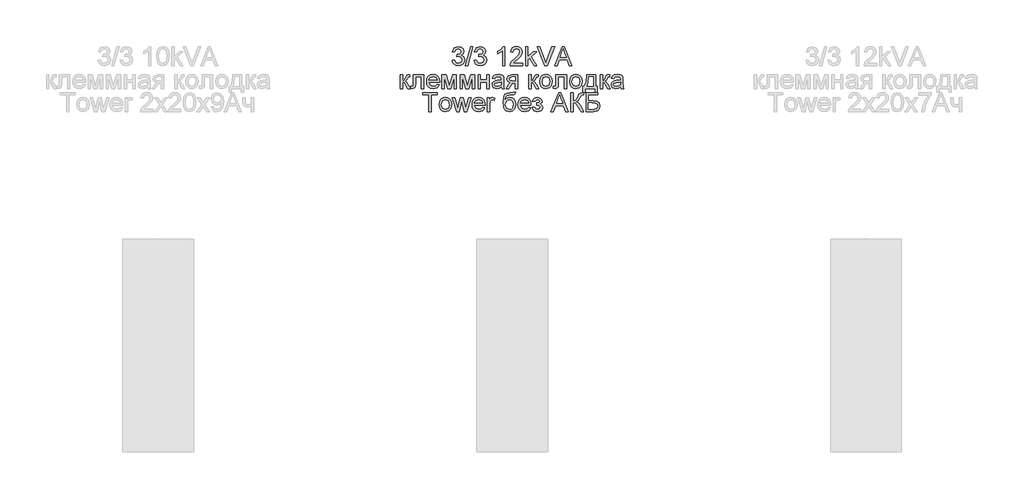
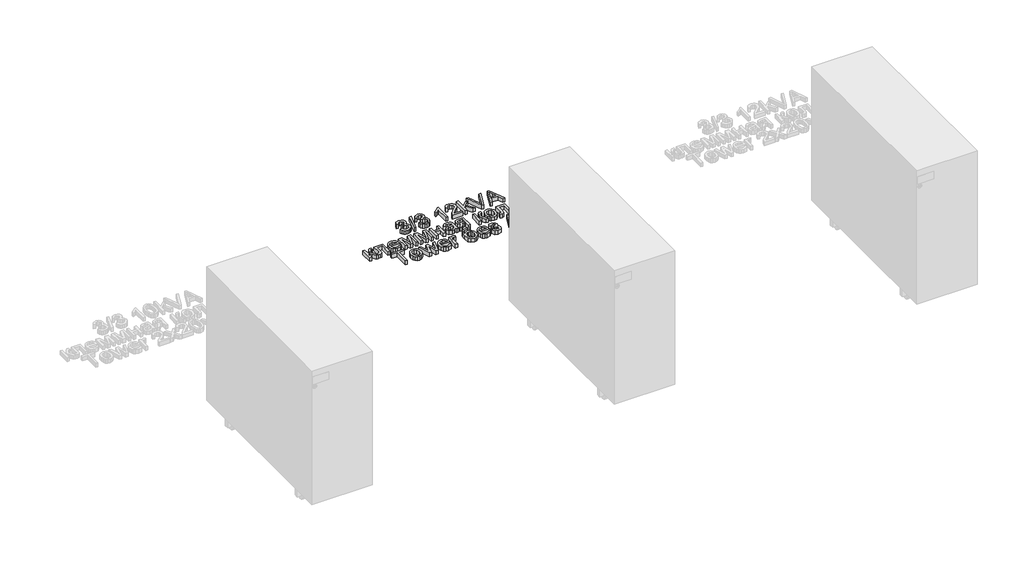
# One storey, part 25 of 74: 1 proxy.
"""IFC4 building model written with IfcOpenShell, lengths in millimetres."""

from ifc_helpers import new_model, si_unit, origin, origin_with_axes, place, context, project, spatial, polyline, outline, extrude, element, save

model = new_model("IFC4")

# Units and contexts
model_context = context("Model", 3, world=origin())
ifc_project = project(units=[si_unit("LENGTHUNIT", "METRE", prefix="MILLI")], contexts=[model_context])

# Site, building, storey
site = spatial("IfcSite", under=ifc_project)
building = spatial("IfcBuilding", under=site)
storey = spatial("IfcBuildingStorey", under=building, Name="Этаж 01", Elevation=0.0)

# Proxy
placement = place(None, origin())
element("IfcBuildingElementProxy", 1, Name="80 мм Arial", ObjectType="80 мм Arial", at=placement, inside=storey, context=model_context, shape_type="SweptSolid", body=[
    extrude(outline(polyline([(10098.3137414, -18752.4422861), (10108.3593724, -18751.1865822), (10113.9021278, -18761.7619633), (10124.2714949, -18764.9993249), (10136.475367, -18760.5455002), (10141.0076732, -18749.5188505), (10136.5146077, -18739.129863), (10125.0955506, -18735.0193948), (10118.0518367, -18736.1181357), (10119.1701979, -18726.0725047), (10120.7790685, -18726.1902269), (10132.1785053, -18723.3060321), (10137.2405615, -18714.4376235), (10133.5715518, -18706.5796641), (10124.114532, -18703.4698349), (10114.5397899, -18706.6090946), (10109.6150762, -18716.0268737), (10099.5694452, -18714.7711698), (10107.7903816, -18699.0160102), (10123.7613652, -18693.4242039), (10135.8769456, -18696.1808663), (10144.3529468, -18703.7150896), (10147.2861926, -18713.8490123), (10144.5000996, -18723.1098284), (10136.2595429, -18729.7611348), (10147.2077111, -18736.6282654), (10151.0533042, -18749.6954339), (10149.1305076, -18759.4860001), (10143.3621179, -18767.6676956), (10134.6555774, -18773.2006408), (10123.9183282, -18775.0449559), (10114.2062435, -18773.470421), (10106.2992332, -18768.7468161), (10100.8006236, -18761.5216138), (10098.3137414, -18752.4422861)])), origin_with_axes(), (0.0, 0.0, 1.0), 20.0),
    extrude(outline(polyline([(10154.8204158, -18773.789252), (10177.4230856, -18693.4242039), (10186.487698, -18693.4242039), (10163.8850282, -18773.789252), (10154.8204158, -18773.789252)])), origin_with_axes(), (0.0, 0.0, 1.0), 20.0),
    extrude(outline(polyline([(10191.2358282, -18752.4422861), (10201.2814593, -18751.1865822), (10206.8242147, -18761.7619633), (10217.1935818, -18764.9993249), (10229.3974539, -18760.5455002), (10233.9297601, -18749.5188505), (10229.4366946, -18739.129863), (10218.0176375, -18735.0193948), (10210.9739236, -18736.1181357), (10212.0922848, -18726.0725047), (10213.7011554, -18726.1902269), (10225.1005922, -18723.3060321), (10230.1626484, -18714.4376235), (10226.4936387, -18706.5796641), (10217.0366188, -18703.4698349), (10207.4618768, -18706.6090946), (10202.5371631, -18716.0268737), (10192.4915321, -18714.7711698), (10200.7124684, -18699.0160102), (10216.6834521, -18693.4242039), (10228.7990325, -18696.1808663), (10237.2750337, -18703.7150896), (10240.2082794, -18713.8490123), (10237.4221865, -18723.1098284), (10229.1816298, -18729.7611348), (10240.129798, -18736.6282654), (10243.9753911, -18749.6954339), (10242.0525945, -18759.4860001), (10236.2842048, -18767.6676956), (10227.5776643, -18773.2006408), (10216.8404151, -18775.0449559), (10207.1283304, -18773.470421), (10199.2213201, -18768.7468161), (10193.7227105, -18761.5216138), (10191.2358282, -18752.4422861)])), origin_with_axes(), (0.0, 0.0, 1.0), 20.0),
    extrude(outline(polyline([(10321.8290314, -18773.789252), (10311.7834004, -18773.789252), (10311.7834004, -18711.1610212), (10302.2675195, -18717.9398601), (10291.6921384, -18723.0117265), (10291.6921384, -18713.5154659), (10306.4172284, -18704.1173072), (10315.3543083, -18693.4242039), (10321.8290314, -18693.4242039), (10321.8290314, -18773.789252)])), origin_with_axes(), (0.0, 0.0, 1.0), 20.0),
    extrude(outline(polyline([(10397.1712641, -18763.743621), (10397.1712641, -18773.789252), (10344.4317012, -18773.789252), (10345.5108217, -18766.8632603), (10351.6127578, -18756.1995876), (10364.1894169, -18744.5548961), (10381.5338267, -18727.8187179), (10385.8699292, -18716.4389015), (10381.7790814, -18707.2271364), (10371.0957882, -18703.4698349), (10359.9612265, -18707.1388447), (10355.7330361, -18717.2825776), (10345.6874051, -18716.0268737), (10348.1227839, -18706.3098839), (10353.3884015, -18699.212214), (10361.2095727, -18694.8712064), (10371.3116123, -18693.4242039), (10381.4872283, -18695.0330745), (10389.2936843, -18699.8596863), (10394.2600912, -18707.0701734), (10395.9155602, -18715.83067), (10394.1301062, -18725.3563611), (10388.1949434, -18735.2057884), (10373.8033997, -18748.9694801), (10362.247, -18758.6325138), (10357.7146938, -18763.743621), (10397.1712641, -18763.743621)])), origin_with_axes(), (0.0, 0.0, 1.0), 20.0),
    extrude(outline(polyline([(10409.7283028, -18773.789252), (10409.7283028, -18693.4242039), (10419.7739338, -18693.4242039), (10419.7739338, -18736.608645), (10442.2981221, -18714.7711698), (10456.1893463, -18714.7711698), (10433.3904728, -18736.8833303), (10457.4450501, -18773.789252), (10445.712067, -18773.789252), (10426.1897958, -18743.8681831), (10419.7739338, -18750.0878413), (10419.7739338, -18773.789252), (10409.7283028, -18773.789252)])), origin_with_axes(), (0.0, 0.0, 1.0), 20.0),
    extrude(outline(polyline([(10532.2182919, -18773.789252), (10564.2976019, -18693.4242039), (10572.8520846, -18693.4242039), (10604.9313946, -18773.789252), (10594.3167727, -18773.789252), (10585.1148177, -18748.6751745), (10552.0152484, -18748.6751745), (10542.8329138, -18773.789252), (10532.2182919, -18773.789252)]), holes=[polyline([(10555.7038785, -18738.6295435), (10581.445808, -18738.6295435), (10574.2058903, -18718.8718278), (10568.5748432, -18703.4698349), (10563.5716481, -18717.145235), (10555.7038785, -18738.6295435)])]), origin_with_axes(), (0.0, 0.0, 1.0), 20.0),
    extrude(outline(polyline([(10491.2313326, -18773.789252), (10459.2501245, -18693.4242039), (10470.0020889, -18693.4242039), (10491.4079159, -18751.3239249), (10495.7440184, -18764.3714729), (10500.0212597, -18751.3239249), (10521.4859479, -18693.4242039), (10532.2379123, -18693.4242039), (10501.6105099, -18773.789252), (10491.2313326, -18773.789252)])), origin_with_axes(), (0.0, 0.0, 1.0), 20.0),
    extrude(outline(polyline([(9933.1886815, -18812.3510241), (9978.3940211, -18812.3510241), (9978.3940211, -18871.3102452), (9968.3483901, -18871.3102452), (9968.3483901, -18822.3966551), (9943.2343126, -18822.3966551), (9943.2343126, -18850.5518905), (9942.5574097, -18863.5405774), (9938.839349, -18869.0244717), (9930.0494219, -18871.3691063), (9921.8873467, -18870.8589766), (9921.8873467, -18861.3234753), (9926.3804121, -18861.3234753), (9930.9225285, -18860.7054335), (9932.737413, -18858.7433962), (9933.1886815, -18849.9828996), (9933.1886815, -18812.3510241)])), origin_with_axes(), (0.0, 0.0, 1.0), 20.0),
    extrude(outline(polyline([(9879.1934148, -18812.3510241), (9889.2390459, -18812.3510241), (9889.2390459, -18837.4651016), (9895.9688338, -18835.6600273), (9901.4821587, -18825.1435073), (9906.0635158, -18816.0690848), (9910.1053126, -18813.1162186), (9917.4531423, -18812.3510241), (9919.3759389, -18812.3510241), (9919.3759389, -18822.4555162), (9916.6683274, -18822.3966551), (9911.7632341, -18823.4561553), (9908.3100485, -18830.068221), (9904.2584414, -18837.219847), (9898.5783434, -18840.7220836), (9904.9157239, -18844.6314429), (9911.1353822, -18852.8670945), (9921.8873467, -18871.3691063), (9910.4682895, -18871.3691063), (9899.9321492, -18853.259502), (9894.6346485, -18845.5977463), (9889.2390459, -18843.743621), (9889.2390459, -18871.3691063), (9879.1934148, -18871.3691063), (9879.1934148, -18812.3510241)])), origin_with_axes(), (0.0, 0.0, 1.0), 20.0),
    extrude(outline(polyline([(10034.7829733, -18853.789252), (10044.6324006, -18855.0449559), (10035.4206355, -18868.0140225), (10018.2626192, -18872.6248102), (10006.4756801, -18870.6357949), (9997.4061626, -18864.6687489), (9991.6230577, -18855.1111747), (9989.695356, -18842.3505745), (9991.642678, -18829.1607787), (9997.4846441, -18819.2966362), (10006.4315342, -18813.1456492), (10017.6936284, -18811.0953202), (10028.6050084, -18813.1407441), (10037.3238116, -18819.2770158), (10043.0406979, -18829.121538), (10044.9463266, -18842.2917134), (10044.8874655, -18844.9993249), (9999.740987, -18844.9993249), (10005.5191869, -18858.046873), (10018.4588229, -18862.5791792), (10028.3082502, -18860.4797992), (10034.7829733, -18853.789252)]), holes=[polyline([(9999.740987, -18834.9536939), (10034.9006956, -18834.9536939), (10030.8785191, -18825.8498408), (10017.6543876, -18821.1409512), (10005.2837424, -18824.8982527), (9999.740987, -18834.9536939)])]), origin_with_axes(), (0.0, 0.0, 1.0), 20.0),
    extrude(outline(polyline([(10054.9919576, -18812.3510241), (10072.2775063, -18812.3510241), (10085.5997396, -18859.5968825), (10099.9618527, -18812.3510241), (10116.5214476, -18812.3510241), (10116.5214476, -18871.3691063), (10106.4758166, -18871.3691063), (10106.4758166, -18823.8485627), (10092.035222, -18871.3691063), (10078.8503313, -18871.3691063), (10065.0375886, -18821.5725994), (10065.0375886, -18871.3691063), (10054.9919576, -18871.3691063), (10054.9919576, -18812.3510241)])), origin_with_axes(), (0.0, 0.0, 1.0), 20.0),
    extrude(outline(polyline([(10131.5898941, -18812.3510241), (10148.8754428, -18812.3510241), (10162.1976761, -18859.5968825), (10176.5597892, -18812.3510241), (10193.1193841, -18812.3510241), (10193.1193841, -18871.3691063), (10183.073753, -18871.3691063), (10183.073753, -18823.8485627), (10168.6331585, -18871.3691063), (10155.4482678, -18871.3691063), (10141.6355251, -18821.5725994), (10141.6355251, -18871.3691063), (10131.5898941, -18871.3691063), (10131.5898941, -18812.3510241)])), origin_with_axes(), (0.0, 0.0, 1.0), 20.0),
    extrude(outline(polyline([(10208.1878306, -18812.3510241), (10218.2334616, -18812.3510241), (10218.2334616, -18834.9536939), (10244.603243, -18834.9536939), (10244.603243, -18812.3510241), (10254.648874, -18812.3510241), (10254.648874, -18871.3691063), (10244.603243, -18871.3691063), (10244.603243, -18844.9993249), (10218.2334616, -18844.9993249), (10218.2334616, -18871.3691063), (10208.1878306, -18871.3691063), (10208.1878306, -18812.3510241)])), origin_with_axes(), (0.0, 0.0, 1.0), 20.0),
    extrude(outline(polyline([(10307.3884369, -18863.834883), (10297.6469216, -18870.6431525), (10286.885147, -18872.6248102), (10272.2973996, -18867.8570595), (10267.2059128, -18855.6728078), (10269.1287094, -18847.7265567), (10274.1809554, -18841.9581671), (10281.2148592, -18838.6619444), (10289.9066844, -18837.1511757), (10307.3295757, -18833.69799), (10307.3884369, -18831.4612675), (10304.6219643, -18824.0447664), (10293.5168331, -18821.1409512), (10283.3534798, -18823.073558), (10278.5072477, -18829.9308784), (10268.4616167, -18828.6751745), (10272.8075293, -18818.864988), (10281.5582157, -18813.1162186), (10294.8117777, -18811.0953202), (10306.9862192, -18812.8807742), (10313.86316, -18817.3640294), (10316.9435585, -18824.1821091), (10317.4340679, -18832.9720362), (10317.4340679, -18845.4702138), (10317.9441976, -18862.9225357), (10319.9454756, -18871.3691063), (10309.8998446, -18871.3691063), (10307.3884369, -18863.834883)]), holes=[polyline([(10307.3884369, -18843.743621), (10291.1820087, -18846.8240196), (10282.5392344, -18848.4525105), (10278.6249699, -18851.1012609), (10277.2515438, -18854.9664744), (10280.2436507, -18860.4013178), (10289.0237677, -18862.5791792), (10299.1871209, -18860.1756835), (10305.7403255, -18854.3582428), (10307.3295757, -18846.5885751), (10307.3884369, -18843.743621)])]), origin_with_axes(), (0.0, 0.0, 1.0), 20.0),
    extrude(outline(polyline([(10376.4521501, -18812.3510241), (10376.4521501, -18871.3691063), (10366.4065191, -18871.3691063), (10366.4065191, -18848.7664365), (10360.932435, -18848.7664365), (10353.4766932, -18850.0417608), (10346.47222, -18858.6158638), (10338.4671078, -18871.3691063), (10326.8518469, -18871.3691063), (10336.9367187, -18855.2411596), (10345.4912014, -18846.8828807), (10333.797459, -18840.7809447), (10329.9911066, -18829.4011283), (10335.1905055, -18817.079534), (10350.2393317, -18812.3510241), (10376.4521501, -18812.3510241)]), holes=[polyline([(10366.4065191, -18822.3966551), (10353.1627672, -18822.3966551), (10342.4402334, -18824.7216693), (10340.0367377, -18830.1663228), (10343.578215, -18836.6508561), (10356.1254436, -18838.7208055), (10366.4065191, -18838.7208055), (10366.4065191, -18822.3966551)])]), origin_with_axes(), (0.0, 0.0, 1.0), 20.0),
    extrude(outline(polyline([(10422.9131935, -18812.3510241), (10432.9588245, -18812.3510241), (10432.9588245, -18837.4651016), (10439.6886125, -18835.6600273), (10445.2019373, -18825.1435073), (10449.7832945, -18816.0690848), (10453.8250913, -18813.1162186), (10461.172921, -18812.3510241), (10463.0957176, -18812.3510241), (10463.0957176, -18822.4555162), (10460.3881061, -18822.3966551), (10455.4830128, -18823.4561553), (10452.0298272, -18830.068221), (10447.9782201, -18837.219847), (10442.2981221, -18840.7220836), (10448.6355026, -18844.6314429), (10454.8551609, -18852.8670945), (10465.6071253, -18871.3691063), (10454.1880682, -18871.3691063), (10443.6519279, -18853.259502), (10438.3544271, -18845.5977463), (10432.9588245, -18843.743621), (10432.9588245, -18871.3691063), (10422.9131935, -18871.3691063), (10422.9131935, -18812.3510241)])), origin_with_axes(), (0.0, 0.0, 1.0), 20.0),
    extrude(outline(polyline([(10469.374237, -18841.8600652), (10471.5471933, -18827.6303896), (10478.0660622, -18817.6289044), (10486.1202254, -18812.7287163), (10495.7636388, -18811.0953202), (10506.3169469, -18813.0843355), (10514.7463497, -18819.0513815), (10520.2719373, -18828.5255691), (10522.1137998, -18841.0360095), (10518.8568179, -18858.9101694), (10509.3703675, -18869.0244717), (10495.7636388, -18872.6248102), (10485.0827982, -18870.6431525), (10476.6632056, -18864.6981795), (10471.1964791, -18855.0253355), (10469.374237, -18841.8600652)]), holes=[polyline([(10479.419868, -18841.8404448), (10484.0698964, -18857.4092109), (10495.7636388, -18862.5791792), (10507.4181404, -18857.3797803), (10512.0681688, -18841.5265189), (10507.3887098, -18826.3109195), (10495.7636388, -18821.1409512), (10484.0698964, -18826.2912992), (10479.419868, -18841.8404448)])]), origin_with_axes(), (0.0, 0.0, 1.0), 20.0),
    extrude(outline(polyline([(10538.4379502, -18812.3510241), (10583.6432898, -18812.3510241), (10583.6432898, -18871.3102452), (10573.5976588, -18871.3102452), (10573.5976588, -18822.3966551), (10548.4835812, -18822.3966551), (10548.4835812, -18850.5518905), (10547.8066783, -18863.5405774), (10544.0886176, -18869.0244717), (10535.2986905, -18871.3691063), (10527.1366153, -18870.8589766), (10527.1366153, -18861.3234753), (10531.6296807, -18861.3234753), (10536.1717971, -18860.7054335), (10537.9866816, -18858.7433962), (10538.4379502, -18849.9828996), (10538.4379502, -18812.3510241)])), origin_with_axes(), (0.0, 0.0, 1.0), 20.0),
    extrude(outline(polyline([(10596.2003285, -18841.8600652), (10598.3732849, -18827.6303896), (10604.8921538, -18817.6289044), (10612.946317, -18812.7287163), (10622.5897303, -18811.0953202), (10633.1430385, -18813.0843355), (10641.5724413, -18819.0513815), (10647.0980288, -18828.5255691), (10648.9398914, -18841.0360095), (10645.6829094, -18858.9101694), (10636.1964591, -18869.0244717), (10622.5897303, -18872.6248102), (10611.9088897, -18870.6431525), (10603.4892971, -18864.6981795), (10598.0225707, -18855.0253355), (10596.2003285, -18841.8600652)]), holes=[polyline([(10606.2459596, -18841.8404448), (10610.895988, -18857.4092109), (10622.5897303, -18862.5791792), (10634.2442319, -18857.3797803), (10638.8942603, -18841.5265189), (10634.2148014, -18826.3109195), (10622.5897303, -18821.1409512), (10610.895988, -18826.2912992), (10606.2459596, -18841.8404448)])]), origin_with_axes(), (0.0, 0.0, 1.0), 20.0),
    extrude(outline(polyline([(10669.0311534, -18812.3510241), (10706.7022697, -18812.3510241), (10706.7022697, -18861.3234753), (10714.236493, -18861.3234753), (10714.236493, -18887.6932567), (10704.1908619, -18887.6932567), (10704.1908619, -18871.3691063), (10662.752634, -18871.3691063), (10662.752634, -18887.6932567), (10652.707003, -18887.6932567), (10652.707003, -18861.3234753), (10658.9855224, -18861.3234753), (10666.7453799, -18842.164181), (10669.0311534, -18812.3510241)]), holes=[polyline([(10677.8210805, -18822.3966551), (10675.4666358, -18845.2838203), (10670.2868573, -18861.3234753), (10696.6566387, -18861.3234753), (10696.6566387, -18822.3966551), (10677.8210805, -18822.3966551)])]), origin_with_axes(), (0.0, 0.0, 1.0), 20.0),
    extrude(outline(polyline([(10725.5378279, -18812.3510241), (10735.5834589, -18812.3510241), (10735.5834589, -18837.4651016), (10742.3132468, -18835.6600273), (10747.8265717, -18825.1435073), (10752.4079288, -18816.0690848), (10756.4497256, -18813.1162186), (10763.7975554, -18812.3510241), (10765.7203519, -18812.3510241), (10765.7203519, -18822.4555162), (10763.0127404, -18822.3966551), (10758.1076472, -18823.4561553), (10754.6544615, -18830.068221), (10750.6028545, -18837.219847), (10744.9227565, -18840.7220836), (10751.260137, -18844.6314429), (10757.4797952, -18852.8670945), (10768.2317597, -18871.3691063), (10756.8127025, -18871.3691063), (10746.2765622, -18853.259502), (10740.9790615, -18845.5977463), (10735.5834589, -18843.743621), (10735.5834589, -18871.3691063), (10725.5378279, -18871.3691063), (10725.5378279, -18812.3510241)])), origin_with_axes(), (0.0, 0.0, 1.0), 20.0),
    extrude(outline(polyline([(10812.1813954, -18863.834883), (10802.4398801, -18870.6431525), (10791.6781055, -18872.6248102), (10777.0903581, -18867.8570595), (10771.9988713, -18855.6728078), (10773.9216679, -18847.7265567), (10778.9739139, -18841.9581671), (10786.0078177, -18838.6619444), (10794.6996429, -18837.1511757), (10812.1225342, -18833.69799), (10812.1813954, -18831.4612675), (10809.4149228, -18824.0447664), (10798.3097916, -18821.1409512), (10788.1464383, -18823.073558), (10783.3002062, -18829.9308784), (10773.2545752, -18828.6751745), (10777.6004878, -18818.864988), (10786.3511742, -18813.1162186), (10799.6047362, -18811.0953202), (10811.7791777, -18812.8807742), (10818.6561185, -18817.3640294), (10821.736517, -18824.1821091), (10822.2270264, -18832.9720362), (10822.2270264, -18845.4702138), (10822.7371561, -18862.9225357), (10824.7384341, -18871.3691063), (10814.6928031, -18871.3691063), (10812.1813954, -18863.834883)]), holes=[polyline([(10812.1813954, -18843.743621), (10795.9749672, -18846.8240196), (10787.3321929, -18848.4525105), (10783.4179284, -18851.1012609), (10782.0445023, -18854.9664744), (10785.0366092, -18860.4013178), (10793.8167262, -18862.5791792), (10803.9800794, -18860.1756835), (10810.533284, -18854.3582428), (10812.1225342, -18846.5885751), (10812.1813954, -18843.743621)])]), origin_with_axes(), (0.0, 0.0, 1.0), 20.0),
    extrude(outline(polyline([(9999.1131351, -18968.9489606), (9999.1131351, -18898.6295435), (9972.7433537, -18898.6295435), (9972.7433537, -18888.5839125), (10035.5285475, -18888.5839125), (10035.5285475, -18898.6295435), (10009.1587661, -18898.6295435), (10009.1587661, -18968.9489606), (9999.1131351, -18968.9489606)])), origin_with_axes(), (0.0, 0.0, 1.0), 20.0),
    extrude(outline(polyline([(10043.0627708, -18939.4399195), (10045.2357271, -18925.2102439), (10051.754596, -18915.2087587), (10059.8087592, -18910.3085705), (10069.4521726, -18908.6751745), (10080.0054807, -18910.6641898), (10088.4348835, -18916.6312358), (10093.9604711, -18926.1054234), (10095.8023336, -18938.6158638), (10092.5453517, -18956.4900237), (10083.0589013, -18966.604326), (10069.4521726, -18970.2046645), (10058.771332, -18968.2230068), (10050.3517394, -18962.2780337), (10044.8850129, -18952.6051898), (10043.0627708, -18939.4399195)]), holes=[polyline([(10053.1084018, -18939.4202991), (10057.7584302, -18954.9890651), (10069.4521726, -18960.1590334), (10081.1066742, -18954.9596346), (10085.7567026, -18939.1063731), (10081.0772436, -18923.8907738), (10069.4521726, -18918.7208055), (10057.7584302, -18923.8711534), (10053.1084018, -18939.4202991)])]), origin_with_axes(), (0.0, 0.0, 1.0), 20.0),
    extrude(outline(polyline([(10116.8942347, -18968.9489606), (10098.9415933, -18909.9308784), (10109.3796318, -18909.9308784), (10119.5626054, -18944.3646331), (10122.6037632, -18956.666607), (10125.0955506, -18944.8159017), (10133.1987647, -18909.9308784), (10145.1671923, -18909.9308784), (10153.2311656, -18944.7177998), (10155.4482678, -18955.4501439), (10158.6267682, -18944.1291886), (10168.8293622, -18909.9308784), (10179.3066414, -18909.9308784), (10161.2166574, -18968.9489606), (10149.0716465, -18968.9489606), (10141.3608399, -18934.3386225), (10139.1241174, -18923.5474173), (10129.1765882, -18968.9489606), (10116.8942347, -18968.9489606)])), origin_with_axes(), (0.0, 0.0, 1.0), 20.0),
    extrude(outline(polyline([(10227.5335184, -18951.3691063), (10237.3829457, -18952.6248102), (10228.1711806, -18965.5938768), (10211.0131643, -18970.2046645), (10199.2262252, -18968.2156491), (10190.1567077, -18962.2486032), (10184.3736028, -18952.6910289), (10182.4459011, -18939.9304288), (10184.3932231, -18926.740633), (10190.2351892, -18916.8764904), (10199.1820793, -18910.7255035), (10210.4441735, -18908.6751745), (10221.3555535, -18910.7205984), (10230.0743567, -18916.8568701), (10235.791243, -18926.7013923), (10237.6968717, -18939.8715677), (10237.6380106, -18942.5791792), (10192.4915321, -18942.5791792), (10198.269732, -18955.6267273), (10211.209368, -18960.1590334), (10221.0587953, -18958.0596535), (10227.5335184, -18951.3691063)]), holes=[polyline([(10192.4915321, -18932.5335481), (10227.6512407, -18932.5335481), (10223.6290642, -18923.429695), (10210.4049327, -18918.7208055), (10198.0342875, -18922.4781069), (10192.4915321, -18932.5335481)])]), origin_with_axes(), (0.0, 0.0, 1.0), 20.0),
    extrude(outline(polyline([(10247.7425027, -18968.9489606), (10247.7425027, -18909.9308784), (10256.5324298, -18909.9308784), (10256.5324298, -18918.6619444), (10262.7717085, -18910.6175914), (10269.0502279, -18908.6751745), (10279.1350996, -18911.7751934), (10275.7800158, -18920.7809447), (10268.7166815, -18918.7208055), (10263.0365835, -18920.7024632), (10259.4166247, -18926.1961676), (10257.7881337, -18937.9291507), (10257.7881337, -18968.9489606), (10247.7425027, -18968.9489606)])), origin_with_axes(), (0.0, 0.0, 1.0), 20.0),
    extrude(outline(polyline([(10358.2444439, -18887.3282086), (10367.034371, -18887.3282086), (10364.4444818, -18895.1665476), (10359.3235644, -18898.0016915), (10347.0215905, -18898.6295435), (10330.4521854, -18900.9447475), (10324.0951845, -18908.3612485), (10321.9467537, -18921.4872781), (10330.6483891, -18911.8732953), (10341.8614324, -18908.6751745), (10352.3141861, -18910.7083356), (10360.7950924, -18916.8078191), (10366.4163293, -18926.3752035), (10368.2900749, -18938.8120675), (10364.5720142, -18956.0976162), (10355.7526565, -18966.5258445), (10341.8614324, -18970.2046645), (10325.9983607, -18965.4663444), (10317.3163456, -18953.3409538), (10314.2948082, -18927.6088345), (10316.2004369, -18908.3342705), (10321.9173231, -18896.5792145), (10331.5877145, -18890.582738), (10345.3538588, -18888.5839125), (10356.5374714, -18888.3582782), (10358.2444439, -18887.3282086)]), holes=[polyline([(10358.2444439, -18938.4981416), (10353.888721, -18924.2635609), (10348.6402712, -18920.1064944), (10341.6063675, -18918.7208055), (10334.2732531, -18920.1849758), (10328.8335046, -18924.5774869), (10324.3404392, -18940.2247344), (10329.3043936, -18955.0283059), (10341.5475064, -18960.1590334), (10348.2821994, -18958.6752427), (10353.6140358, -18954.2238706), (10358.2444439, -18938.4981416)])]), origin_with_axes(), (0.0, 0.0, 1.0), 20.0),
    extrude(outline(polyline([(10422.1676194, -18951.3691063), (10432.0170466, -18952.6248102), (10422.8052815, -18965.5938768), (10405.6472652, -18970.2046645), (10393.8603261, -18968.2156491), (10384.7908086, -18962.2486032), (10379.0077037, -18952.6910289), (10377.080002, -18939.9304288), (10379.027324, -18926.740633), (10384.8692901, -18916.8764904), (10393.8161803, -18910.7255035), (10405.0782744, -18908.6751745), (10415.9896544, -18910.7205984), (10424.7084577, -18916.8568701), (10430.4253439, -18926.7013923), (10432.3309726, -18939.8715677), (10432.2721115, -18942.5791792), (10387.125633, -18942.5791792), (10392.9038329, -18955.6267273), (10405.843469, -18960.1590334), (10415.6928962, -18958.0596535), (10422.1676194, -18951.3691063)]), holes=[polyline([(10387.125633, -18932.5335481), (10422.2853416, -18932.5335481), (10418.2631651, -18923.429695), (10405.0390337, -18918.7208055), (10392.6683884, -18922.4781069), (10387.125633, -18932.5335481)])]), origin_with_axes(), (0.0, 0.0, 1.0), 20.0),
    extrude(outline(polyline([(10456.1893463, -18942.5791792), (10456.1893463, -18932.5335481), (10464.115977, -18932.1411407), (10468.1185331, -18930.051571), (10470.0020889, -18925.6860379), (10467.480871, -18920.6141715), (10460.9767173, -18918.7208055), (10454.2567395, -18920.6043613), (10449.9108269, -18926.2550288), (10438.609492, -18924.9993249), (10446.1633356, -18912.7562121), (10459.9564579, -18908.6751745), (10474.7109784, -18913.6489391), (10480.0477199, -18925.529075), (10478.1494488, -18931.7683536), (10472.4546355, -18936.5949654), (10479.0961318, -18942.8538644), (10481.3034238, -18951.8596156), (10479.9030197, -18959.2540437), (10475.7018073, -18965.1131776), (10460.0349394, -18970.2046645), (10444.5838956, -18965.4957749), (10437.3537881, -18951.3691063), (10448.655123, -18950.1134024), (10453.1874292, -18957.5299034), (10460.9963377, -18960.1590334), (10468.3343572, -18957.6378155), (10471.2577928, -18951.1925229), (10469.4429083, -18945.9146426), (10465.5776948, -18943.0893089), (10458.1513836, -18942.520318), (10456.1893463, -18942.5791792)])), origin_with_axes(), (0.0, 0.0, 1.0), 20.0),
    extrude(outline(polyline([(10517.1498454, -18968.9489606), (10549.2291554, -18888.5839125), (10557.7836381, -18888.5839125), (10589.862948, -18968.9489606), (10579.2483262, -18968.9489606), (10570.0463712, -18943.834883), (10536.9468018, -18943.834883), (10527.7644672, -18968.9489606), (10517.1498454, -18968.9489606)]), holes=[polyline([(10540.635432, -18933.789252), (10566.3773615, -18933.789252), (10559.1374438, -18914.0315363), (10553.5063967, -18898.6295435), (10548.5032016, -18912.3049435), (10540.635432, -18933.789252)])]), origin_with_axes(), (0.0, 0.0, 1.0), 20.0),
    extrude(outline(polyline([(10600.5952921, -18888.5839125), (10610.6409231, -18888.5839125), (10610.6409231, -18923.743621), (10621.8735867, -18921.0850605), (10629.7119257, -18907.6352947), (10635.2546811, -18896.4026311), (10641.5332005, -18890.8402554), (10650.5095212, -18888.5839125), (10657.1019666, -18888.7016347), (10657.1019666, -18898.7472657), (10654.8848644, -18898.6884046), (10652.6677622, -18898.6295435), (10644.819613, -18901.0428494), (10638.8550196, -18911.382786), (10631.7426344, -18923.9790655), (10624.8068325, -18928.1385846), (10632.5617849, -18932.6807009), (10640.2088253, -18942.147531), (10657.1019666, -18968.9489606), (10645.447465, -18968.9489606), (10631.1638334, -18946.30705), (10621.1083922, -18934.4857753), (10610.6409231, -18931.2778443), (10610.6409231, -18968.9489606), (10600.5952921, -18968.9489606), (10600.5952921, -18888.5839125)])), origin_with_axes(), (0.0, 0.0, 1.0), 20.0),
    extrude(outline(polyline([(10665.8918937, -18888.5839125), (10716.1200488, -18888.5839125), (10716.1200488, -18898.6295435), (10675.9375247, -18898.6295435), (10675.9375247, -18922.4879171), (10694.7534625, -18922.4879171), (10711.3326777, -18924.5284359), (10721.2017254, -18932.2392426), (10724.9099759, -18945.4241333), (10722.2710357, -18956.8726209), (10714.3934559, -18965.5742564), (10696.5585368, -18968.9489606), (10665.8918937, -18968.9489606), (10665.8918937, -18888.5839125)]), holes=[polyline([(10675.9375247, -18958.9033296), (10697.461074, -18958.9033296), (10710.5086221, -18955.5874865), (10714.8643449, -18945.6399574), (10712.3725575, -18937.7721878), (10705.4367556, -18933.5734279), (10690.2996378, -18932.5335481), (10675.9375247, -18932.5335481), (10675.9375247, -18958.9033296)])]), origin_with_axes(), (0.0, 0.0, 1.0), 20.0),
])

save(model, "model.ifc")
